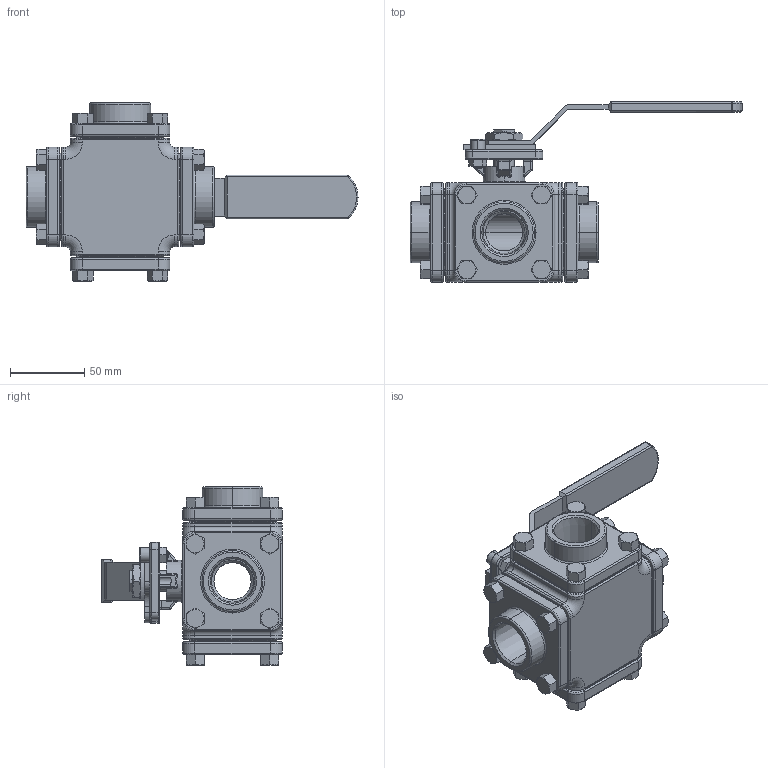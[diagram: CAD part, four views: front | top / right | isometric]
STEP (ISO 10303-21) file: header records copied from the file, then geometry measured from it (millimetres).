
FILE_DESCRIPTION (( 'STEP AP214' ), '1' );
FILE_NAME ('501T----1.STEP', '2013-04-03T03:13:27', ( 'zipson' ), ( 'zipson' ), 'SwSTEP 2.0', 'SolidWorks 2008', '' );
FILE_SCHEMA (( 'AUTOMOTIVE_DESIGN' ));
Length unit declared in the file: millimetre
Products named in the file (1): 501T----1
Bounding box: 223.3 x 121.5 x 119.8 mm (x, y, z)
Volume: 589288.9 mm3; surface area: 99126.3 mm2
Topology: 1 solids, 1 shells, 742 faces, 1813 edges, 1091 vertices
Faces by surface type: plane 268, cylinder 228, cone 119, torus 99, sphere 16, bspline 12
Entity records: 23072 total; most frequent: CARTESIAN_POINT 5656, DIRECTION 3750, ORIENTED_EDGE 3610, EDGE_CURVE 1805, AXIS2_PLACEMENT_3D 1461, VERTEX_POINT 1091, VECTOR 828, LINE 828
